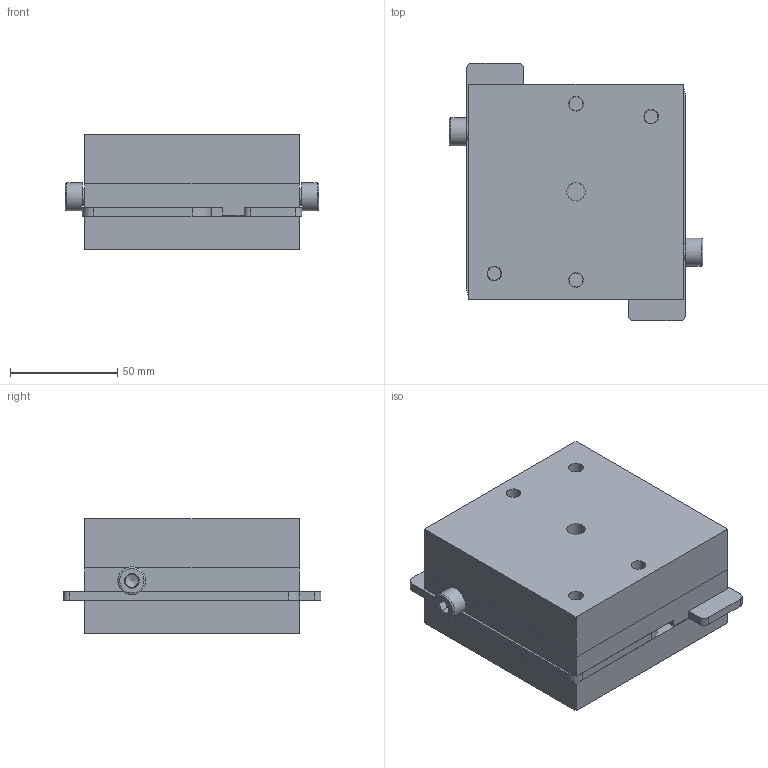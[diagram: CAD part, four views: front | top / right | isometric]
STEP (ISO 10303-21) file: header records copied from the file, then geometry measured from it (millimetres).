
FILE_DESCRIPTION(/* description */ (''),/* implementation_level */ '2;1');
FILE_NAME(/* name */ 'moule grande roulette V2 v2.step',/* time_stamp */ '2023-08-10T15:16:32+02:00',/* author */ (''),/* organization */ (''),/* preprocessor_version */ 'ST-DEVELOPER v20',/* originating_system */ 'Autodesk Translation Framework v12.9.0.99',/* authorisation */ '');
FILE_SCHEMA (('AUTOMOTIVE_DESIGN { 1 0 10303 214 3 1 1 }'));
Length unit declared in the file: millimetre
Products named in the file (15): moule grande roulette V2; roulette 1 v1; insert; moule; partie fixe; E_1301_8x16_1 v1; partie mobile; noyaux; E_1242_10x25_1 v1(Symétrie miroir); E_1242_10x25_1 v1; tiroirs rotatifs; devet; cylinder head hex screw (1); tiroir rotatif sym; cylinder head hex screw
Assembly tree (17 placements, depth 5):
  moule grande roulette V2
    roulette 1 v1
    insert
    moule
      partie fixe
        E_1301_8x16_1 v1  x2
      partie mobile
        noyaux
          E_1242_10x25_1 v1(Symétrie miroir)
          E_1242_10x25_1 v1
        tiroirs rotatifs
        devet
          cylinder head hex screw (1)  x2
        tiroir rotatif sym
      cylinder head hex screw  x2
Bounding box: 118 x 120 x 53.5 mm (x, y, z)
Volume: 527961 mm3; surface area: 124973.1 mm2
Topology: 16 solids, 16 shells, 471 faces, 1093 edges, 686 vertices
Faces by surface type: plane 172, cylinder 152, cone 122, torus 21, sphere 4
Full cylindrical faces by diameter (mm): 5 x3, 6 x2, 6.75 x2, 6.779 x6, 7 x2, 7.866 x4, 8 x8, 8.526 x1, 9 x6, 9.6 x2, 10 x16, 13 x4, 15 x2, 16 x2, 17 x2, 51 x1, 51.2 x1
Entity records: 12516 total; most frequent: DIRECTION 2298, CARTESIAN_POINT 2141, ORIENTED_EDGE 1924, EDGE_CURVE 962, AXIS2_PLACEMENT_3D 940, VERTEX_POINT 615, EDGE_LOOP 525, CIRCLE 496
